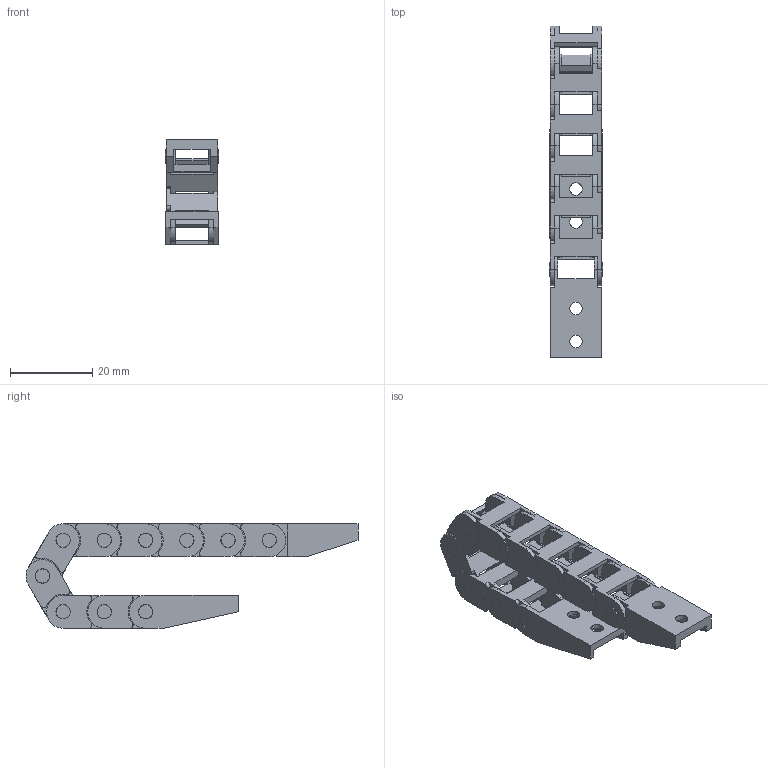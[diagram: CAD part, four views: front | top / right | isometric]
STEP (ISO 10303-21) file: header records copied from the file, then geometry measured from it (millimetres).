
FILE_DESCRIPTION(/* description */ (''),/* implementation_level */ '2;1');
FILE_NAME(/* name */ '5X8-R10.stp',/* time_stamp */ '2026-07-24T08:33:26+08:00',/* author */ (''),/* organization */ (''),/* preprocessor_version */ 'ST-DEVELOPER v19.4',/* originating_system */ 'SIEMENS PLM Software NX2306.5001',/* authorisation */ '');
FILE_SCHEMA (('AP203_CONFIGURATION_CONTROLLED_3D_DESIGN_OF_MECHANICAL_PARTS_AND_ASSEMBLIES_MIM_LF { 1 0 10303 403 2 1 2}'));
Length unit declared in the file: millimetre
Products named in the file (1): 5X8产品装配图纸_objects
Bounding box: 13 x 80.5 x 25.32 mm (x, y, z)
Volume: 5228.8 mm3; surface area: 9900.5 mm2
Topology: 11 solids, 11 shells, 505 faces, 1491 edges, 1010 vertices
Faces by surface type: plane 354, cylinder 147, cone 4
Full cylindrical faces by diameter (mm): 3 x4, 3.4 x20, 3.5 x20
Entity records: 16697 total; most frequent: CARTESIAN_POINT 3098, ORIENTED_EDGE 2818, DIRECTION 2683, EDGE_CURVE 1409, LINE 1057, VECTOR 1057, VERTEX_POINT 976, AXIS2_PLACEMENT_3D 813
